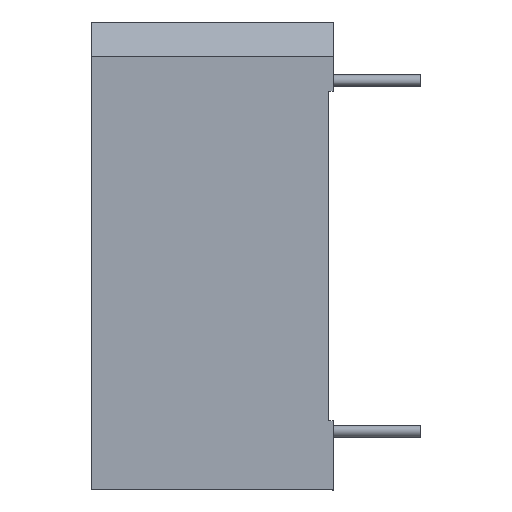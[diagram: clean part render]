
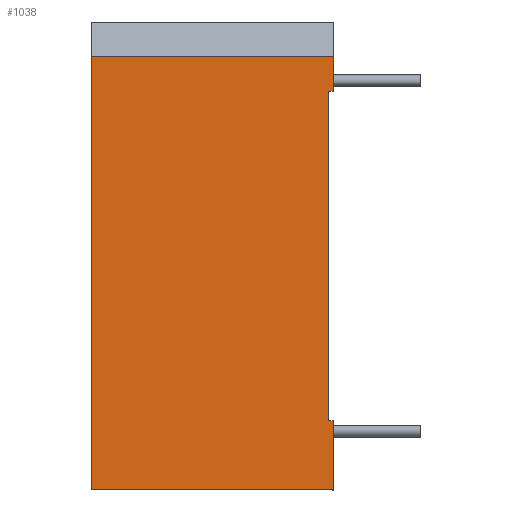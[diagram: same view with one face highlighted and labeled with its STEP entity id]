
A CAD part, left-side view. The second image highlights one B-rep face of the part: STEP entity #1038.
In plain terms, the highlighted planar face has unit normal (-1, 0, 0).
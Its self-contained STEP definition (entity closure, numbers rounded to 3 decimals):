
#5 = EDGE_CURVE ( 'NONE', #1314, #1211, #401, .T. ) ;
#7 = LINE ( 'NONE', #450, #1011 ) ;
#26 = EDGE_CURVE ( 'NONE', #1252, #1314, #177, .T. ) ;
#38 = CARTESIAN_POINT ( 'NONE',  ( -15.9, 10.3, -10.15 ) ) ;
#54 = DIRECTION ( 'NONE',  ( 0., 0., 1. ) ) ;
#100 = LINE ( 'NONE', #636, #606 ) ;
#150 = VERTEX_POINT ( 'NONE', #427 ) ;
#177 = LINE ( 'NONE', #1271, #272 ) ;
#227 = ORIENTED_EDGE ( 'NONE', *, *, #1436, .F. ) ;
#237 = EDGE_CURVE ( 'NONE', #883, #1053, #1422, .T. ) ;
#247 = CARTESIAN_POINT ( 'NONE',  ( -15.9, -0.2, -7.15 ) ) ;
#272 = VECTOR ( 'NONE', #392, 1000. ) ;
#281 = EDGE_CURVE ( 'NONE', #846, #150, #7, .T. ) ;
#309 = ORIENTED_EDGE ( 'NONE', *, *, #26, .T. ) ;
#340 = CARTESIAN_POINT ( 'NONE',  ( -15.9, 10.3, -10.15 ) ) ;
#352 = FACE_OUTER_BOUND ( 'NONE', #1247, .T. ) ;
#384 = DIRECTION ( 'NONE',  ( 0., 1., 0. ) ) ;
#392 = DIRECTION ( 'NONE',  ( 0., 1., 0. ) ) ;
#401 = LINE ( 'NONE', #1026, #969 ) ;
#427 = CARTESIAN_POINT ( 'NONE',  ( -15.9, -0.2, 7.15 ) ) ;
#450 = CARTESIAN_POINT ( 'NONE',  ( -15.9, -0.2, 8.65 ) ) ;
#457 = EDGE_CURVE ( 'NONE', #883, #1154, #711, .T. ) ;
#481 = DIRECTION ( 'NONE',  ( 0., 0., 1. ) ) ;
#545 = CARTESIAN_POINT ( 'NONE',  ( -15.9, 10.3, -10.15 ) ) ;
#547 = ORIENTED_EDGE ( 'NONE', *, *, #237, .T. ) ;
#606 = VECTOR ( 'NONE', #988, 1000. ) ;
#636 = CARTESIAN_POINT ( 'NONE',  ( -15.9, -0.2, 7.15 ) ) ;
#672 = VECTOR ( 'NONE', #481, 1000. ) ;
#688 = CARTESIAN_POINT ( 'NONE',  ( -15.9, 10.3, 8.65 ) ) ;
#711 = LINE ( 'NONE', #38, #672 ) ;
#778 = CARTESIAN_POINT ( 'NONE',  ( -15.9, -0.2, 8.65 ) ) ;
#788 = DIRECTION ( 'NONE',  ( 0., 0., -1. ) ) ;
#798 = PLANE ( 'NONE',  #1131 ) ;
#809 = ORIENTED_EDGE ( 'NONE', *, *, #281, .F. ) ;
#820 = DIRECTION ( 'NONE',  ( 1., 0., 0. ) ) ;
#827 = CARTESIAN_POINT ( 'NONE',  ( -15.9, -0.2, -10.15 ) ) ;
#846 = VERTEX_POINT ( 'NONE', #778 ) ;
#883 = VERTEX_POINT ( 'NONE', #545 ) ;
#889 = DIRECTION ( 'NONE',  ( 0., 0., -1. ) ) ;
#891 = ORIENTED_EDGE ( 'NONE', *, *, #1068, .T. ) ;
#919 = ORIENTED_EDGE ( 'NONE', *, *, #457, .F. ) ;
#969 = VECTOR ( 'NONE', #54, 1000. ) ;
#988 = DIRECTION ( 'NONE',  ( 0., 1., 0. ) ) ;
#999 = DIRECTION ( 'NONE',  ( 0., -1., 0. ) ) ;
#1011 = VECTOR ( 'NONE', #889, 1000. ) ;
#1026 = CARTESIAN_POINT ( 'NONE',  ( -15.9, 0., -10.15 ) ) ;
#1033 = DIRECTION ( 'NONE',  ( 0., 0., -1. ) ) ;
#1038 = ADVANCED_FACE ( 'NONE', ( #352 ), #798, .F. ) ;
#1053 = VERTEX_POINT ( 'NONE', #827 ) ;
#1068 = EDGE_CURVE ( 'NONE', #846, #1154, #1151, .T. ) ;
#1087 = VECTOR ( 'NONE', #788, 1000. ) ;
#1127 = EDGE_CURVE ( 'NONE', #1252, #1053, #1337, .T. ) ;
#1131 = AXIS2_PLACEMENT_3D ( 'NONE', #1231, #820, #1033 ) ;
#1151 = LINE ( 'NONE', #1400, #1440 ) ;
#1154 = VERTEX_POINT ( 'NONE', #688 ) ;
#1211 = VERTEX_POINT ( 'NONE', #1334 ) ;
#1231 = CARTESIAN_POINT ( 'NONE',  ( -15.9, 10.3, -10.15 ) ) ;
#1247 = EDGE_LOOP ( 'NONE', ( #547, #1256, #309, #1401, #227, #809, #891, #919 ) ) ;
#1252 = VERTEX_POINT ( 'NONE', #1377 ) ;
#1256 = ORIENTED_EDGE ( 'NONE', *, *, #1127, .F. ) ;
#1269 = VECTOR ( 'NONE', #999, 1000. ) ;
#1271 = CARTESIAN_POINT ( 'NONE',  ( -15.9, -0.2, -7.15 ) ) ;
#1314 = VERTEX_POINT ( 'NONE', #1396 ) ;
#1334 = CARTESIAN_POINT ( 'NONE',  ( -15.9, 0., 7.15 ) ) ;
#1337 = LINE ( 'NONE', #247, #1087 ) ;
#1377 = CARTESIAN_POINT ( 'NONE',  ( -15.9, -0.2, -7.15 ) ) ;
#1396 = CARTESIAN_POINT ( 'NONE',  ( -15.9, 0., -7.15 ) ) ;
#1400 = CARTESIAN_POINT ( 'NONE',  ( -15.9, 10.3, 8.65 ) ) ;
#1401 = ORIENTED_EDGE ( 'NONE', *, *, #5, .T. ) ;
#1422 = LINE ( 'NONE', #340, #1269 ) ;
#1436 = EDGE_CURVE ( 'NONE', #150, #1211, #100, .T. ) ;
#1440 = VECTOR ( 'NONE', #384, 1000. ) ;
